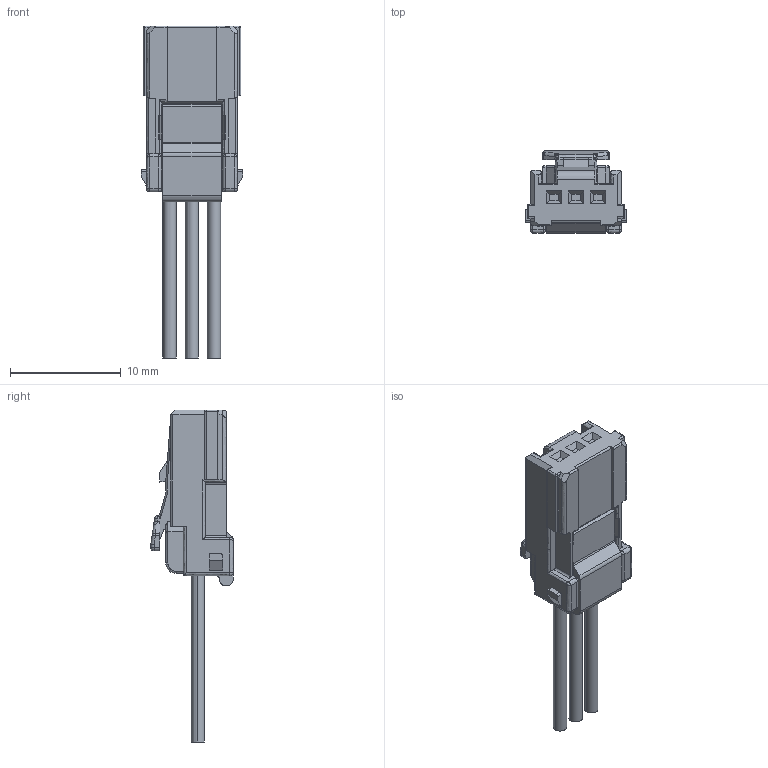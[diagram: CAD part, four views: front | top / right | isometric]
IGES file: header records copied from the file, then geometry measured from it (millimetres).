
Start section: SolidWorks IGES file using analytic representation for surfaces
Global section: file name: C:\Users\08803\Desktop\PDM\ISH全シリーズモデル(STEP)2017.2.6時点\水平\1列\3P\ISH 3P FEMALE CONNECTOR.IGS; native system: SolidWorks 2017; preprocessor: SolidWorks 2017; author: 08803; date: 180820.140535; units: millimetre
Bounding box: 9.2 x 7.45 x 29.95 mm (x, y, z)
Surface area: 826.8 mm2 (no closed solid volume)
Topology: 0 solids, 0 shells, 338 faces, 2317 edges, 2303 vertices
Faces by surface type: bspline 208, revolution 130
